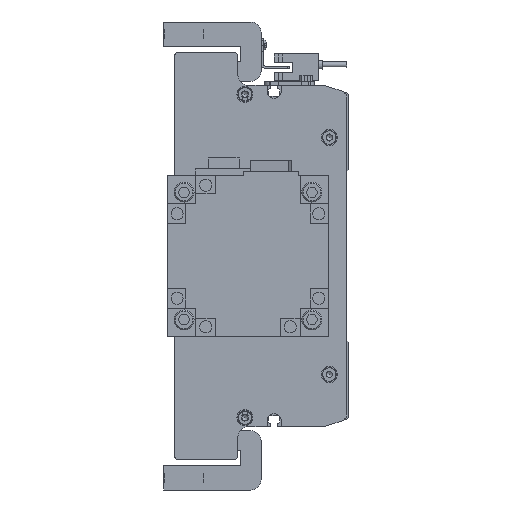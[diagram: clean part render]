
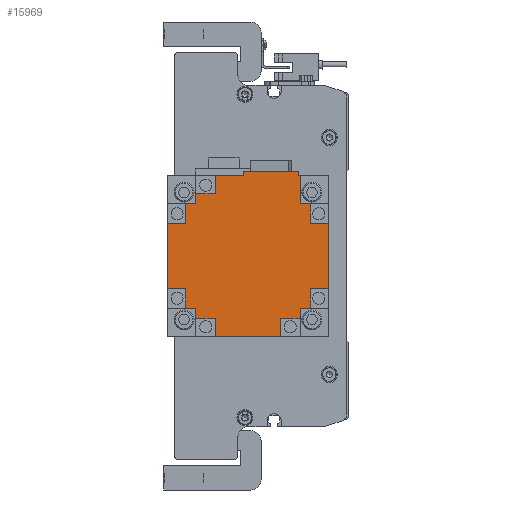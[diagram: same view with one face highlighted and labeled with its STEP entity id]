
A CAD part, left-side view. The second image highlights one B-rep face of the part: STEP entity #15969.
In plain terms, the highlighted planar face has unit normal (-1, 0, 0) as drawn and (0, 1, 0) by its records, which use the part's own axes.
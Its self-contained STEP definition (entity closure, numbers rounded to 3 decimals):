
#1636=ORIENTED_EDGE('',*,*,#6056,.T.);
#1637=ORIENTED_EDGE('',*,*,#6057,.T.);
#1638=ORIENTED_EDGE('',*,*,#6058,.T.);
#1639=ORIENTED_EDGE('',*,*,#6059,.T.);
#1640=ORIENTED_EDGE('',*,*,#6060,.T.);
#1641=ORIENTED_EDGE('',*,*,#6061,.F.);
#1642=ORIENTED_EDGE('',*,*,#6062,.F.);
#1643=ORIENTED_EDGE('',*,*,#6063,.T.);
#1644=ORIENTED_EDGE('',*,*,#6064,.T.);
#1645=ORIENTED_EDGE('',*,*,#6065,.T.);
#1646=ORIENTED_EDGE('',*,*,#6066,.T.);
#1647=ORIENTED_EDGE('',*,*,#6067,.T.);
#1648=ORIENTED_EDGE('',*,*,#6068,.F.);
#1649=ORIENTED_EDGE('',*,*,#6069,.F.);
#1650=ORIENTED_EDGE('',*,*,#6070,.T.);
#1651=ORIENTED_EDGE('',*,*,#6071,.T.);
#1652=ORIENTED_EDGE('',*,*,#6072,.T.);
#1653=ORIENTED_EDGE('',*,*,#6073,.T.);
#1654=ORIENTED_EDGE('',*,*,#6074,.T.);
#1655=ORIENTED_EDGE('',*,*,#6075,.F.);
#1656=ORIENTED_EDGE('',*,*,#6076,.F.);
#1657=ORIENTED_EDGE('',*,*,#6047,.T.);
#1658=ORIENTED_EDGE('',*,*,#6077,.F.);
#1659=ORIENTED_EDGE('',*,*,#6038,.F.);
#1660=ORIENTED_EDGE('',*,*,#6078,.T.);
#1661=ORIENTED_EDGE('',*,*,#6053,.T.);
#1662=ORIENTED_EDGE('',*,*,#6079,.T.);
#1663=ORIENTED_EDGE('',*,*,#6080,.T.);
#1664=ORIENTED_EDGE('',*,*,#6081,.F.);
#1665=ORIENTED_EDGE('',*,*,#6082,.F.);
#6038=EDGE_CURVE('',#8280,#8281,#9906,.T.);
#6047=EDGE_CURVE('',#8290,#8288,#9915,.T.);
#6053=EDGE_CURVE('',#8296,#8295,#9921,.T.);
#6056=EDGE_CURVE('',#8298,#8299,#9924,.T.);
#6057=EDGE_CURVE('',#8299,#8300,#9925,.T.);
#6058=EDGE_CURVE('',#8300,#8301,#9926,.T.);
#6059=EDGE_CURVE('',#8301,#8302,#9927,.T.);
#6060=EDGE_CURVE('',#8302,#8303,#9928,.T.);
#6061=EDGE_CURVE('',#8304,#8303,#9929,.T.);
#6062=EDGE_CURVE('',#8305,#8304,#9930,.T.);
#6063=EDGE_CURVE('',#8305,#8306,#9931,.T.);
#6064=EDGE_CURVE('',#8306,#8307,#9932,.T.);
#6065=EDGE_CURVE('',#8307,#8308,#9933,.T.);
#6066=EDGE_CURVE('',#8308,#8309,#9934,.T.);
#6067=EDGE_CURVE('',#8309,#8310,#9935,.T.);
#6068=EDGE_CURVE('',#8311,#8310,#9936,.T.);
#6069=EDGE_CURVE('',#8312,#8311,#9937,.T.);
#6070=EDGE_CURVE('',#8312,#8313,#9938,.T.);
#6071=EDGE_CURVE('',#8313,#8314,#9939,.T.);
#6072=EDGE_CURVE('',#8314,#8315,#9940,.T.);
#6073=EDGE_CURVE('',#8315,#8316,#9941,.T.);
#6074=EDGE_CURVE('',#8316,#8317,#9942,.T.);
#6075=EDGE_CURVE('',#8318,#8317,#9943,.T.);
#6076=EDGE_CURVE('',#8290,#8318,#9944,.T.);
#6077=EDGE_CURVE('',#8281,#8288,#9945,.T.);
#6078=EDGE_CURVE('',#8280,#8296,#9946,.T.);
#6079=EDGE_CURVE('',#8295,#8319,#9947,.T.);
#6080=EDGE_CURVE('',#8319,#8320,#9948,.T.);
#6081=EDGE_CURVE('',#8321,#8320,#9949,.T.);
#6082=EDGE_CURVE('',#8298,#8321,#9950,.T.);
#8280=VERTEX_POINT('',#23725);
#8281=VERTEX_POINT('',#23726);
#8288=VERTEX_POINT('',#23742);
#8290=VERTEX_POINT('',#23745);
#8295=VERTEX_POINT('',#23755);
#8296=VERTEX_POINT('',#23757);
#8298=VERTEX_POINT('',#23763);
#8299=VERTEX_POINT('',#23764);
#8300=VERTEX_POINT('',#23766);
#8301=VERTEX_POINT('',#23768);
#8302=VERTEX_POINT('',#23770);
#8303=VERTEX_POINT('',#23772);
#8304=VERTEX_POINT('',#23774);
#8305=VERTEX_POINT('',#23776);
#8306=VERTEX_POINT('',#23778);
#8307=VERTEX_POINT('',#23780);
#8308=VERTEX_POINT('',#23782);
#8309=VERTEX_POINT('',#23784);
#8310=VERTEX_POINT('',#23786);
#8311=VERTEX_POINT('',#23788);
#8312=VERTEX_POINT('',#23790);
#8313=VERTEX_POINT('',#23792);
#8314=VERTEX_POINT('',#23794);
#8315=VERTEX_POINT('',#23796);
#8316=VERTEX_POINT('',#23798);
#8317=VERTEX_POINT('',#23800);
#8318=VERTEX_POINT('',#23802);
#8319=VERTEX_POINT('',#23807);
#8320=VERTEX_POINT('',#23809);
#8321=VERTEX_POINT('',#23811);
#9906=LINE('',#23724,#11434);
#9915=LINE('',#23744,#11443);
#9921=LINE('',#23756,#11449);
#9924=LINE('',#23762,#11452);
#9925=LINE('',#23765,#11453);
#9926=LINE('',#23767,#11454);
#9927=LINE('',#23769,#11455);
#9928=LINE('',#23771,#11456);
#9929=LINE('',#23773,#11457);
#9930=LINE('',#23775,#11458);
#9931=LINE('',#23777,#11459);
#9932=LINE('',#23779,#11460);
#9933=LINE('',#23781,#11461);
#9934=LINE('',#23783,#11462);
#9935=LINE('',#23785,#11463);
#9936=LINE('',#23787,#11464);
#9937=LINE('',#23789,#11465);
#9938=LINE('',#23791,#11466);
#9939=LINE('',#23793,#11467);
#9940=LINE('',#23795,#11468);
#9941=LINE('',#23797,#11469);
#9942=LINE('',#23799,#11470);
#9943=LINE('',#23801,#11471);
#9944=LINE('',#23803,#11472);
#9945=LINE('',#23804,#11473);
#9946=LINE('',#23805,#11474);
#9947=LINE('',#23806,#11475);
#9948=LINE('',#23808,#11476);
#9949=LINE('',#23810,#11477);
#9950=LINE('',#23812,#11478);
#11434=VECTOR('',#18925,1000.);
#11443=VECTOR('',#18936,1000.);
#11449=VECTOR('',#18942,1000.);
#11452=VECTOR('',#18947,1000.);
#11453=VECTOR('',#18948,1000.);
#11454=VECTOR('',#18949,1000.);
#11455=VECTOR('',#18950,1000.);
#11456=VECTOR('',#18951,1000.);
#11457=VECTOR('',#18952,1000.);
#11458=VECTOR('',#18953,1000.);
#11459=VECTOR('',#18954,1000.);
#11460=VECTOR('',#18955,1000.);
#11461=VECTOR('',#18956,1000.);
#11462=VECTOR('',#18957,1000.);
#11463=VECTOR('',#18958,1000.);
#11464=VECTOR('',#18959,1000.);
#11465=VECTOR('',#18960,1000.);
#11466=VECTOR('',#18961,1000.);
#11467=VECTOR('',#18962,1000.);
#11468=VECTOR('',#18963,1000.);
#11469=VECTOR('',#18964,1000.);
#11470=VECTOR('',#18965,1000.);
#11471=VECTOR('',#18966,1000.);
#11472=VECTOR('',#18967,1000.);
#11473=VECTOR('',#18968,1000.);
#11474=VECTOR('',#18969,1000.);
#11475=VECTOR('',#18970,1000.);
#11476=VECTOR('',#18971,1000.);
#11477=VECTOR('',#18972,1000.);
#11478=VECTOR('',#18973,1000.);
#12906=EDGE_LOOP('',(#1636,#1637,#1638,#1639,#1640,#1641,#1642,#1643,#1644,
#1645,#1646,#1647,#1648,#1649,#1650,#1651,#1652,#1653,#1654,#1655,#1656,
#1657,#1658,#1659,#1660,#1661,#1662,#1663,#1664,#1665));
#14146=FACE_BOUND('',#12906,.T.);
#15377=PLANE('',#17040);
#15969=ADVANCED_FACE('',(#14146),#15377,.T.);
#17040=AXIS2_PLACEMENT_3D('',#23761,#18945,#18946);
#18925=DIRECTION('',(0.,0.,1.));
#18936=DIRECTION('',(0.,0.,-1.));
#18942=DIRECTION('',(0.,0.,-1.));
#18945=DIRECTION('',(0.,1.,0.));
#18946=DIRECTION('',(0.,0.,1.));
#18947=DIRECTION('',(-1.,0.,0.));
#18948=DIRECTION('',(0.,0.,-1.));
#18949=DIRECTION('',(-1.,0.,0.));
#18950=DIRECTION('',(0.,0.,1.));
#18951=DIRECTION('',(-1.,0.,0.));
#18952=DIRECTION('',(0.,0.,-1.));
#18953=DIRECTION('',(1.,0.,0.));
#18954=DIRECTION('',(0.,0.,1.));
#18955=DIRECTION('',(-1.,0.,0.));
#18956=DIRECTION('',(0.,0.,1.));
#18957=DIRECTION('',(1.,0.,0.));
#18958=DIRECTION('',(0.,0.,1.));
#18959=DIRECTION('',(-1.,0.,0.));
#18960=DIRECTION('',(0.,0.,-1.));
#18961=DIRECTION('',(1.,0.,0.));
#18962=DIRECTION('',(0.,0.,1.));
#18963=DIRECTION('',(1.,0.,0.));
#18964=DIRECTION('',(0.,0.,-1.));
#18965=DIRECTION('',(1.,0.,0.));
#18966=DIRECTION('',(0.,0.,1.));
#18967=DIRECTION('',(-1.,0.,0.));
#18968=DIRECTION('',(-1.,0.,0.));
#18969=DIRECTION('',(-1.,0.,0.));
#18970=DIRECTION('',(-1.,0.,0.));
#18971=DIRECTION('',(0.,0.,-1.));
#18972=DIRECTION('',(1.,0.,0.));
#18973=DIRECTION('',(0.,0.,1.));
#23724=CARTESIAN_POINT('',(42.,138.3,-2.2));
#23725=CARTESIAN_POINT('',(42.,138.3,-2.2));
#23726=CARTESIAN_POINT('',(42.,138.3,25.2));
#23742=CARTESIAN_POINT('',(39.95,138.3,25.2));
#23744=CARTESIAN_POINT('',(39.95,138.3,39.95));
#23745=CARTESIAN_POINT('',(39.95,138.3,25.95));
#23755=CARTESIAN_POINT('',(39.95,138.3,-16.35));
#23756=CARTESIAN_POINT('',(39.95,138.3,39.95));
#23757=CARTESIAN_POINT('',(39.95,138.3,-2.2));
#23761=CARTESIAN_POINT('',(0.,138.3,0.));
#23762=CARTESIAN_POINT('',(0.,138.3,-30.95));
#23763=CARTESIAN_POINT('',(25.95,138.3,-30.95));
#23764=CARTESIAN_POINT('',(16.35,138.3,-30.95));
#23765=CARTESIAN_POINT('',(16.35,138.3,0.));
#23766=CARTESIAN_POINT('',(16.35,138.3,-39.95));
#23767=CARTESIAN_POINT('',(39.95,138.3,-39.95));
#23768=CARTESIAN_POINT('',(-16.35,138.3,-39.95));
#23769=CARTESIAN_POINT('',(-16.35,138.3,0.));
#23770=CARTESIAN_POINT('',(-16.35,138.3,-30.95));
#23771=CARTESIAN_POINT('',(0.,138.3,-30.95));
#23772=CARTESIAN_POINT('',(-25.95,138.3,-30.95));
#23773=CARTESIAN_POINT('',(-25.95,138.3,0.));
#23774=CARTESIAN_POINT('',(-25.95,138.3,-25.95));
#23775=CARTESIAN_POINT('',(0.,138.3,-25.95));
#23776=CARTESIAN_POINT('',(-30.95,138.3,-25.95));
#23777=CARTESIAN_POINT('',(-30.95,138.3,0.));
#23778=CARTESIAN_POINT('',(-30.95,138.3,-16.35));
#23779=CARTESIAN_POINT('',(0.,138.3,-16.35));
#23780=CARTESIAN_POINT('',(-39.95,138.3,-16.35));
#23781=CARTESIAN_POINT('',(-39.95,138.3,-39.95));
#23782=CARTESIAN_POINT('',(-39.95,138.3,16.35));
#23783=CARTESIAN_POINT('',(0.,138.3,16.35));
#23784=CARTESIAN_POINT('',(-30.95,138.3,16.35));
#23785=CARTESIAN_POINT('',(-30.95,138.3,0.));
#23786=CARTESIAN_POINT('',(-30.95,138.3,25.95));
#23787=CARTESIAN_POINT('',(0.,138.3,25.95));
#23788=CARTESIAN_POINT('',(-25.95,138.3,25.95));
#23789=CARTESIAN_POINT('',(-25.95,138.3,0.));
#23790=CARTESIAN_POINT('',(-25.95,138.3,30.95));
#23791=CARTESIAN_POINT('',(0.,138.3,30.95));
#23792=CARTESIAN_POINT('',(-16.35,138.3,30.95));
#23793=CARTESIAN_POINT('',(-16.35,138.3,0.));
#23794=CARTESIAN_POINT('',(-16.35,138.3,39.95));
#23795=CARTESIAN_POINT('',(-39.95,138.3,39.95));
#23796=CARTESIAN_POINT('',(16.35,138.3,39.95));
#23797=CARTESIAN_POINT('',(16.35,138.3,0.));
#23798=CARTESIAN_POINT('',(16.35,138.3,30.95));
#23799=CARTESIAN_POINT('',(0.,138.3,30.95));
#23800=CARTESIAN_POINT('',(25.95,138.3,30.95));
#23801=CARTESIAN_POINT('',(25.95,138.3,0.));
#23802=CARTESIAN_POINT('',(25.95,138.3,25.95));
#23803=CARTESIAN_POINT('',(0.,138.3,25.95));
#23804=CARTESIAN_POINT('',(42.,138.3,25.2));
#23805=CARTESIAN_POINT('',(42.,138.3,-2.2));
#23806=CARTESIAN_POINT('',(0.,138.3,-16.35));
#23807=CARTESIAN_POINT('',(30.95,138.3,-16.35));
#23808=CARTESIAN_POINT('',(30.95,138.3,0.));
#23809=CARTESIAN_POINT('',(30.95,138.3,-25.95));
#23810=CARTESIAN_POINT('',(0.,138.3,-25.95));
#23811=CARTESIAN_POINT('',(25.95,138.3,-25.95));
#23812=CARTESIAN_POINT('',(25.95,138.3,0.));
